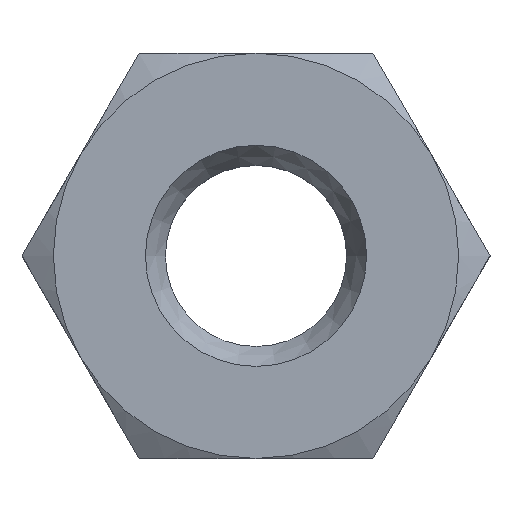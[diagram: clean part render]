
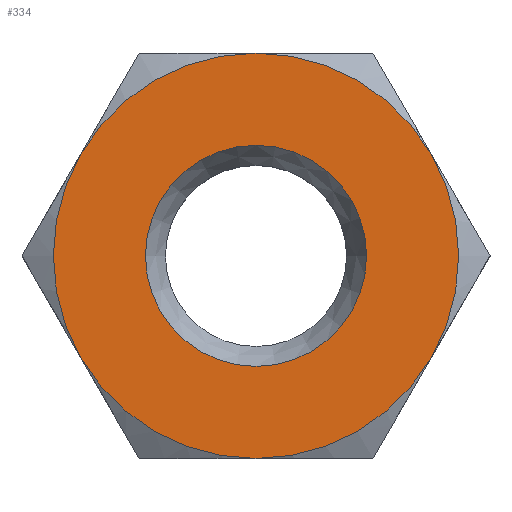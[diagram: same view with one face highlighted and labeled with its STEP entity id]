
A CAD part, top view. The second image highlights one B-rep face of the part: STEP entity #334.
In plain terms, the highlighted planar face has unit normal (0, 0, 1).
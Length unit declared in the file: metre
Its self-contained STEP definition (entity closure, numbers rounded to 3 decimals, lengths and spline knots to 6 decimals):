
#22=CIRCLE('',#372,0.0015);
#23=CIRCLE('',#373,0.00275);
#24=CIRCLE('',#374,0.00275);
#25=CIRCLE('',#375,0.00275);
#26=CIRCLE('',#376,0.00275);
#27=CIRCLE('',#377,0.00275);
#28=CIRCLE('',#378,0.00275);
#69=ORIENTED_EDGE('',*,*,#163,.F.);
#70=ORIENTED_EDGE('',*,*,#164,.T.);
#71=ORIENTED_EDGE('',*,*,#165,.T.);
#72=ORIENTED_EDGE('',*,*,#166,.T.);
#73=ORIENTED_EDGE('',*,*,#167,.T.);
#74=ORIENTED_EDGE('',*,*,#168,.T.);
#75=ORIENTED_EDGE('',*,*,#169,.T.);
#163=EDGE_CURVE('',#210,#210,#22,.T.);
#164=EDGE_CURVE('',#207,#211,#23,.T.);
#165=EDGE_CURVE('',#211,#201,#24,.T.);
#166=EDGE_CURVE('',#201,#212,#25,.T.);
#167=EDGE_CURVE('',#212,#195,#26,.T.);
#168=EDGE_CURVE('',#195,#213,#27,.T.);
#169=EDGE_CURVE('',#213,#207,#28,.T.);
#195=VERTEX_POINT('',#522);
#201=VERTEX_POINT('',#541);
#207=VERTEX_POINT('',#560);
#210=VERTEX_POINT('',#571);
#211=VERTEX_POINT('',#573);
#212=VERTEX_POINT('',#576);
#213=VERTEX_POINT('',#579);
#260=EDGE_LOOP('',(#69));
#261=EDGE_LOOP('',(#70,#71,#72,#73,#74,#75));
#290=FACE_BOUND('',#260,.T.);
#291=FACE_BOUND('',#261,.T.);
#320=PLANE('',#371);
#334=ADVANCED_FACE('',(#290,#291),#320,.T.);
#371=AXIS2_PLACEMENT_3D('',#569,#429,#430);
#372=AXIS2_PLACEMENT_3D('',#570,#431,#432);
#373=AXIS2_PLACEMENT_3D('',#572,#433,#434);
#374=AXIS2_PLACEMENT_3D('',#574,#435,#436);
#375=AXIS2_PLACEMENT_3D('',#575,#437,#438);
#376=AXIS2_PLACEMENT_3D('',#577,#439,#440);
#377=AXIS2_PLACEMENT_3D('',#578,#441,#442);
#378=AXIS2_PLACEMENT_3D('',#580,#443,#444);
#429=DIRECTION('',(0.,0.,1.));
#430=DIRECTION('',(1.,0.,0.));
#431=DIRECTION('',(0.,0.,1.));
#432=DIRECTION('',(1.,0.,0.));
#433=DIRECTION('',(0.,0.,1.));
#434=DIRECTION('',(1.,0.,0.));
#435=DIRECTION('',(0.,0.,1.));
#436=DIRECTION('',(1.,0.,0.));
#437=DIRECTION('',(0.,0.,1.));
#438=DIRECTION('',(1.,0.,0.));
#439=DIRECTION('',(0.,0.,1.));
#440=DIRECTION('',(1.,0.,0.));
#441=DIRECTION('',(0.,0.,1.));
#442=DIRECTION('',(1.,0.,0.));
#443=DIRECTION('',(0.,0.,1.));
#444=DIRECTION('',(1.,0.,0.));
#522=CARTESIAN_POINT('',(-0.002382,-0.001375,0.0012));
#541=CARTESIAN_POINT('',(0.,0.00275,0.0012));
#560=CARTESIAN_POINT('',(0.002382,-0.001375,0.0012));
#569=CARTESIAN_POINT('',(0.,0.,0.0012));
#570=CARTESIAN_POINT('',(0.,0.,0.0012));
#571=CARTESIAN_POINT('',(0.0015,0.,0.0012));
#572=CARTESIAN_POINT('',(0.,0.,0.0012));
#573=CARTESIAN_POINT('',(0.002382,0.001375,0.0012));
#574=CARTESIAN_POINT('',(0.,0.,0.0012));
#575=CARTESIAN_POINT('',(0.,0.,0.0012));
#576=CARTESIAN_POINT('',(-0.002382,0.001375,0.0012));
#577=CARTESIAN_POINT('',(0.,0.,0.0012));
#578=CARTESIAN_POINT('',(0.,0.,0.0012));
#579=CARTESIAN_POINT('',(0.,-0.00275,0.0012));
#580=CARTESIAN_POINT('',(0.,0.,0.0012));
